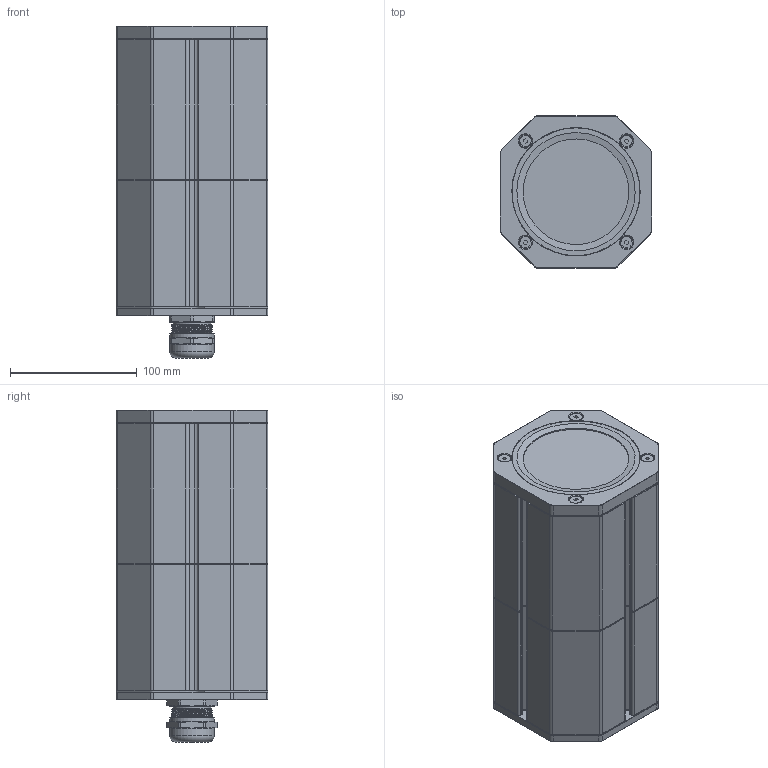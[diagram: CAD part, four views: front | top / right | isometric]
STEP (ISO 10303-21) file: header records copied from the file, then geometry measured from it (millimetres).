
FILE_DESCRIPTION(/* description */ (''),/* implementation_level */ '2;1');
FILE_NAME(/* name */ 'FG-CH87-110-100-F01-B01.stp',/* time_stamp */ '2026-04-14T15:14:52+02:00',/* author */ ('roman'),/* organization */ (''),/* preprocessor_version */ 'ST-DEVELOPER v20',/* originating_system */ 'Autodesk Inventor 2024',/* authorisation */ '');
FILE_SCHEMA (('AUTOMOTIVE_DESIGN { 1 0 10303 214 3 1 1 }'));
Length unit declared in the file: millimetre
Products named in the file (16): FG-CH87-110-100-F01-B01; SUB-CH87-MID-110-100; CH87-BDB-100; CH87-ROD-210; CH87-BDF-110; SUB-CH87-BCK-B01; CH87-CPB-RD; SKINTOP 32x1.5; Matice pruchodky M32x1,5; CH87-SL1; SUB-CH87-FRT-F01; CH87-CPF-RD; CH87-GLS; CH87-SLW; CH87-SL2; DIN 7991 - M5x20
Assembly tree (26 placements, depth 3):
  FG-CH87-110-100-F01-B01
    SUB-CH87-MID-110-100
      CH87-BDB-100
      CH87-ROD-210  x4
      CH87-BDF-110
      CH87-SL1
    SUB-CH87-BCK-B01
      CH87-CPB-RD
      SKINTOP 32x1.5
      Matice pruchodky M32x1,5
    CH87-SL1
    DIN 7991 - M5x20  x8
    SUB-CH87-FRT-F01
      CH87-CPF-RD
      CH87-GLS
      CH87-SLW
    CH87-SL2
Bounding box: 120 x 120 x 262.4 mm (x, y, z)
Volume: 881528.7 mm3; surface area: 495732.8 mm2
Topology: 23 solids, 23 shells, 1025 faces, 2750 edges, 1777 vertices
Faces by surface type: plane 459, cylinder 456, cone 98, torus 9, bspline 3
Full cylindrical faces by diameter (mm): 4 x4, 5 x8, 5.5 x4, 6 x8, 6.8 x20, 8.5 x4, 10 x8, 21.4 x1, 25 x1, 30 x2, 30.376 x1, 32 x6, 32.2 x1, 32.5 x1, 35.3 x2, 83 x1, 83.5 x1, 85.5 x3, 87 x5, 101 x1, 101.5 x1
Entity records: 26307 total; most frequent: CARTESIAN_POINT 5494, DIRECTION 4428, ORIENTED_EDGE 4134, EDGE_CURVE 2067, AXIS2_PLACEMENT_3D 1616, VERTEX_POINT 1340, LINE 1196, VECTOR 1196
